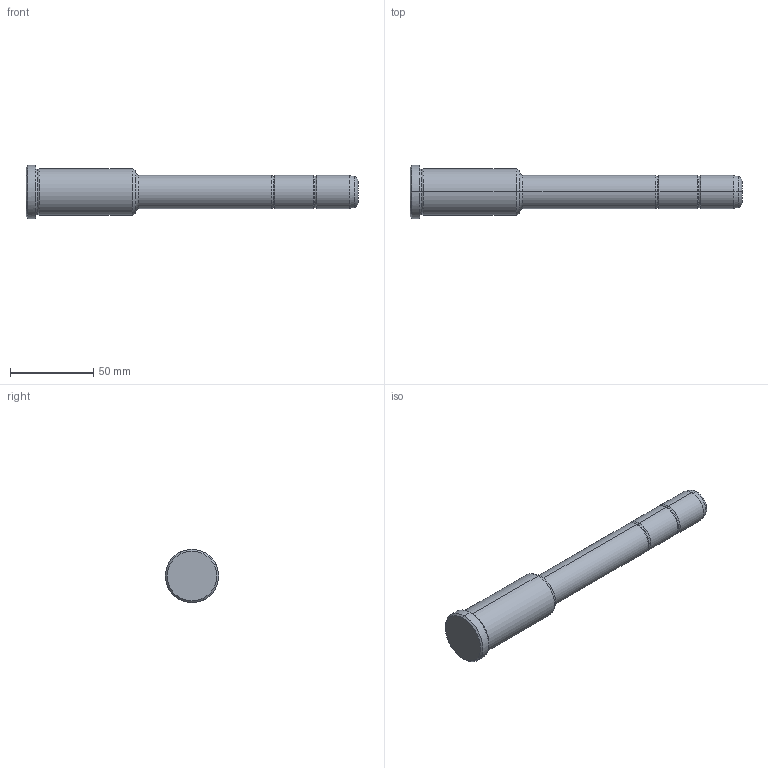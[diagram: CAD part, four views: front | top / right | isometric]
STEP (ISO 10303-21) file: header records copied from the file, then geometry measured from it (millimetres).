
FILE_DESCRIPTION(('CATIA V5 STEP Exchange'),'2;1');
FILE_NAME('C:\Users\Utente\Desktop\IO LAVORO\3D X SITO CF\X SITO\PLASTICA\351\351-20X66X200.stp','2021-08-27T13:12:23+00:00',('none'),('none'),'CATIA Version 5 Release 20 GA (IN-10)','CATIA V5 STEP AP203','none');
FILE_SCHEMA(('CONFIG_CONTROL_DESIGN'));
Length unit declared in the file: millimetre
Products named in the file (1): 351-20X66X200
Bounding box: 200 x 32 x 32 mm (x, y, z)
Volume: 83375.7 mm3; surface area: 15643.1 mm2
Topology: 1 solids, 1 shells, 36 faces, 102 edges, 70 vertices
Faces by surface type: torus 16, cylinder 10, cone 6, plane 4
Entity records: 1292 total; most frequent: CARTESIAN_POINT 321, ORIENTED_EDGE 204, DIRECTION 166, AXIS2_PLACEMENT_3D 115, EDGE_CURVE 102, CIRCLE 78, VERTEX_POINT 70, EDGE_LOOP 38
